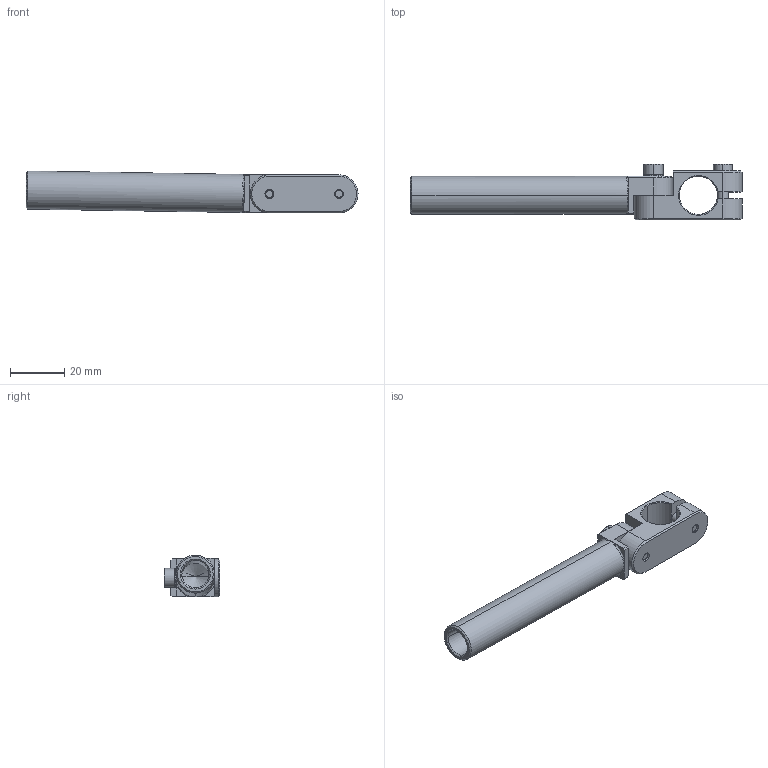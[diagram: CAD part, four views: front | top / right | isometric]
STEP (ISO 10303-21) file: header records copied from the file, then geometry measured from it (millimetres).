
FILE_DESCRIPTION (( 'STEP AP214' ), '1' );
FILE_NAME ('SEA-1414L80.STEP', '2019-11-11T02:39:54', ( '微软用户' ), ( '微软中国' ), 'SwSTEP 2.0', 'SolidWorks 2016', '' );
FILE_SCHEMA (( 'AUTOMOTIVE_DESIGN' ));
Length unit declared in the file: millimetre
Products named in the file (1): SEA-1414L80
Bounding box: 121.89 x 20.5 x 15.41 mm (x, y, z)
Volume: 14581.1 mm3; surface area: 10496.8 mm2
Topology: 6 solids, 6 shells, 502 faces, 1430 edges, 927 vertices
Faces by surface type: plane 431, cylinder 35, cone 20, bspline 16
Entity records: 23953 total; most frequent: CARTESIAN_POINT 5022, ORIENTED_EDGE 2832, DIRECTION 2828, EDGE_CURVE 1416, AXIS2_PLACEMENT_3D 953, VERTEX_POINT 927, LINE 922, VECTOR 922
